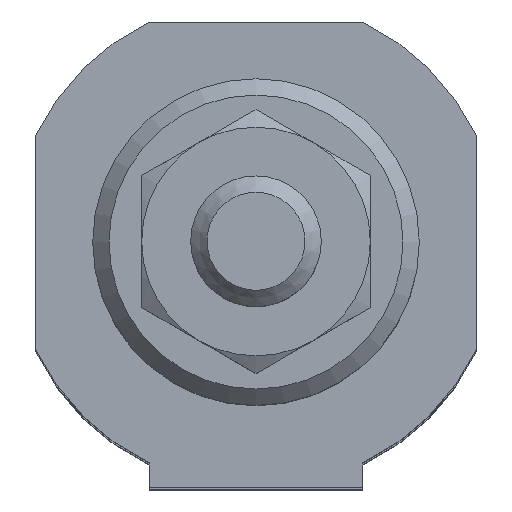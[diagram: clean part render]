
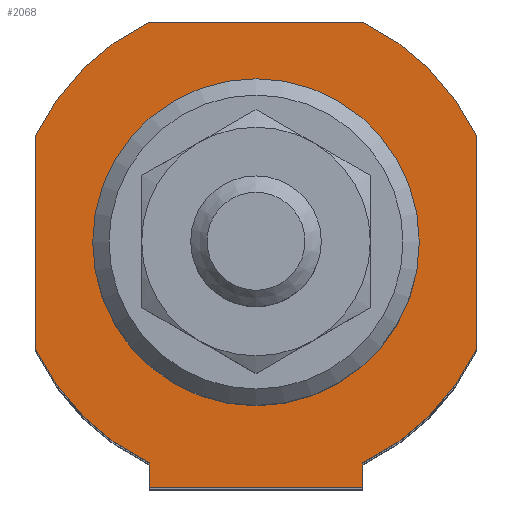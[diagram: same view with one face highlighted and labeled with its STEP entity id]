
A CAD part, top view. The second image highlights one B-rep face of the part: STEP entity #2068.
In plain terms, the highlighted planar face has unit normal (0, 0, 1).
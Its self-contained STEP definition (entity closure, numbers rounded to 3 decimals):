
#1123=CARTESIAN_POINT('',(6.538,-15.0,109.));
#1124=VERTEX_POINT('',#1123);
#1125=CARTESIAN_POINT('',(-6.538,-15.0,109.));
#1126=VERTEX_POINT('',#1125);
#1127=CARTESIAN_POINT('',(6.538,-15.0,109.));
#1128=DIRECTION('',(-1.0,0.0,0.0));
#1129=VECTOR('',#1128,13.077);
#1130=LINE('',#1127,#1129);
#1131=EDGE_CURVE('',#1124,#1126,#1130,.T.);
#1420=CARTESIAN_POINT('',(-6.538,-13.5,109.));
#1421=VERTEX_POINT('',#1420);
#1435=CARTESIAN_POINT('',(-6.538,-13.5,109.));
#1436=DIRECTION('',(0.0,-1.0,0.0));
#1437=VECTOR('',#1436,1.5);
#1438=LINE('',#1435,#1437);
#1439=EDGE_CURVE('',#1421,#1126,#1438,.T.);
#1451=CARTESIAN_POINT('',(6.538,-13.5,109.));
#1452=VERTEX_POINT('',#1451);
#1459=CARTESIAN_POINT('',(6.538,-13.5,109.));
#1460=DIRECTION('',(0.0,-1.0,0.0));
#1461=VECTOR('',#1460,1.5);
#1462=LINE('',#1459,#1461);
#1463=EDGE_CURVE('',#1452,#1124,#1462,.T.);
#1788=CARTESIAN_POINT('',(10.0,0.,109.));
#1789=VERTEX_POINT('',#1788);
#1790=CARTESIAN_POINT('',(0.,0.,109.));
#1791=DIRECTION('',(0.0,0.0,-1.0));
#1792=DIRECTION('',(-1.0,0.0,0.0));
#1793=AXIS2_PLACEMENT_3D('',#1790,#1791,#1792);
#1794=CIRCLE('',#1793,10.0);
#1795=EDGE_CURVE('',#1789,#1789,#1794,.T.);
#1888=CARTESIAN_POINT('',(6.538,13.5,109.));
#1889=VERTEX_POINT('',#1888);
#1890=CARTESIAN_POINT('',(13.5,6.538,109.));
#1891=VERTEX_POINT('',#1890);
#1892=CARTESIAN_POINT('',(0.0,0.0,109.0));
#1893=DIRECTION('',(0.0,0.0,-1.));
#1894=DIRECTION('',(-0.9,-0.436,0.0));
#1895=AXIS2_PLACEMENT_3D('',#1892,#1893,#1894);
#1896=CIRCLE('',#1895,15.);
#1897=EDGE_CURVE('',#1889,#1891,#1896,.T.);
#1920=CARTESIAN_POINT('',(13.5,-6.538,109.));
#1921=VERTEX_POINT('',#1920);
#1922=CARTESIAN_POINT('',(13.5,6.538,109.));
#1923=DIRECTION('',(0.0,-1.0,0.0));
#1924=VECTOR('',#1923,13.077);
#1925=LINE('',#1922,#1924);
#1926=EDGE_CURVE('',#1891,#1921,#1925,.T.);
#1944=CARTESIAN_POINT('',(0.0,0.0,109.0));
#1945=DIRECTION('',(0.0,0.0,-1.));
#1946=DIRECTION('',(-0.436,0.9,0.0));
#1947=AXIS2_PLACEMENT_3D('',#1944,#1945,#1946);
#1948=CIRCLE('',#1947,15.);
#1949=EDGE_CURVE('',#1921,#1452,#1948,.T.);
#1962=CARTESIAN_POINT('',(-13.5,-6.538,109.));
#1963=VERTEX_POINT('',#1962);
#1964=CARTESIAN_POINT('',(0.0,0.0,109.0));
#1965=DIRECTION('',(0.0,0.0,-1.));
#1966=DIRECTION('',(0.9,0.436,0.0));
#1967=AXIS2_PLACEMENT_3D('',#1964,#1965,#1966);
#1968=CIRCLE('',#1967,15.);
#1969=EDGE_CURVE('',#1421,#1963,#1968,.T.);
#1987=CARTESIAN_POINT('',(-13.5,6.538,109.));
#1988=VERTEX_POINT('',#1987);
#1989=CARTESIAN_POINT('',(-13.5,-6.538,109.));
#1990=DIRECTION('',(0.0,1.0,0.0));
#1991=VECTOR('',#1990,13.077);
#1992=LINE('',#1989,#1991);
#1993=EDGE_CURVE('',#1963,#1988,#1992,.T.);
#2011=CARTESIAN_POINT('',(-6.538,13.5,109.));
#2012=VERTEX_POINT('',#2011);
#2013=CARTESIAN_POINT('',(0.0,0.0,109.0));
#2014=DIRECTION('',(0.0,0.0,-1.));
#2015=DIRECTION('',(0.436,-0.9,0.0));
#2016=AXIS2_PLACEMENT_3D('',#2013,#2014,#2015);
#2017=CIRCLE('',#2016,15.);
#2018=EDGE_CURVE('',#1988,#2012,#2017,.T.);
#2036=CARTESIAN_POINT('',(-6.538,13.5,109.));
#2037=DIRECTION('',(1.0,0.0,0.0));
#2038=VECTOR('',#2037,13.077);
#2039=LINE('',#2036,#2038);
#2040=EDGE_CURVE('',#2012,#1889,#2039,.T.);
#2048=CARTESIAN_POINT('',(0.,0.0,109.));
#2049=DIRECTION('',(0.0,0.0,1.0));
#2050=DIRECTION('',(1.0,0.0,0.0));
#2051=AXIS2_PLACEMENT_3D('',#2048,#2049,#2050);
#2052=PLANE('',#2051);
#2053=ORIENTED_EDGE('',*,*,#1897,.F.);
#2054=ORIENTED_EDGE('',*,*,#2040,.F.);
#2055=ORIENTED_EDGE('',*,*,#2018,.F.);
#2056=ORIENTED_EDGE('',*,*,#1993,.F.);
#2057=ORIENTED_EDGE('',*,*,#1969,.F.);
#2058=ORIENTED_EDGE('',*,*,#1439,.T.);
#2059=ORIENTED_EDGE('',*,*,#1131,.F.);
#2060=ORIENTED_EDGE('',*,*,#1463,.F.);
#2061=ORIENTED_EDGE('',*,*,#1949,.F.);
#2062=ORIENTED_EDGE('',*,*,#1926,.F.);
#2063=EDGE_LOOP('',(#2053,#2054,#2055,#2056,#2057,#2058,#2059,#2060,#2061,#2062));
#2064=FACE_OUTER_BOUND('',#2063,.T.);
#2065=ORIENTED_EDGE('',*,*,#1795,.T.);
#2066=EDGE_LOOP('',(#2065));
#2067=FACE_BOUND('',#2066,.T.);
#2068=ADVANCED_FACE('',(#2064,#2067),#2052,.T.);
